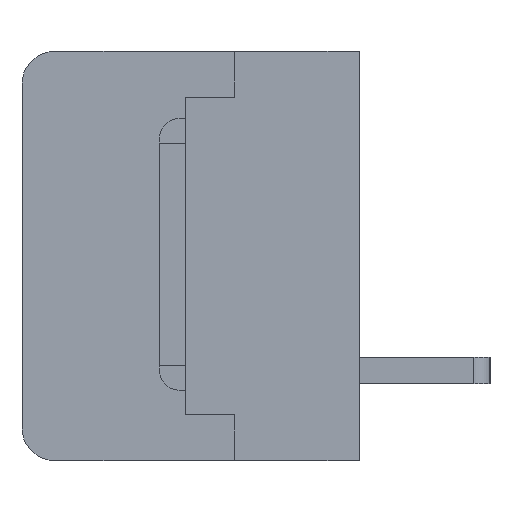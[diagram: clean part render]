
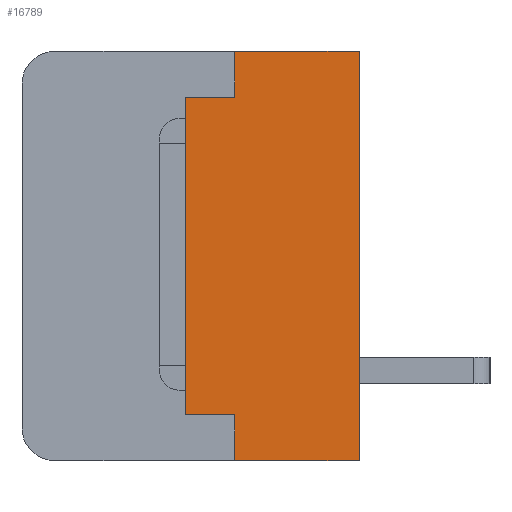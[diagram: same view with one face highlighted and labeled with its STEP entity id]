
A CAD part, left-side view. The second image highlights one B-rep face of the part: STEP entity #16789.
In plain terms, the highlighted planar face has unit normal (-1, 0, 0).
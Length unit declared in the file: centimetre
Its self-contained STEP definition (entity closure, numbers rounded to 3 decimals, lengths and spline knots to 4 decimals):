
#1075=PLANE('',#27540);
#1795=VECTOR('',#18044,1.);
#1878=VECTOR('',#18171,1.);
#1896=VECTOR('',#18192,1.);
#1913=VECTOR('',#18210,1.);
#2612=VECTOR('',#19812,1.);
#2613=VECTOR('',#19813,1.);
#2614=VECTOR('',#19814,1.);
#2615=VECTOR('',#19815,1.);
#3591=LINE('',#22477,#1795);
#3674=LINE('',#22662,#1878);
#3692=LINE('',#22700,#1896);
#3709=LINE('',#22733,#1913);
#4408=LINE('',#25145,#2612);
#4409=LINE('',#25147,#2613);
#4410=LINE('',#25148,#2614);
#4411=LINE('',#25150,#2615);
#5323=VERTEX_POINT('',#22476);
#5324=VERTEX_POINT('',#22478);
#5373=VERTEX_POINT('',#22618);
#5394=VERTEX_POINT('',#22661);
#5412=VERTEX_POINT('',#22699);
#5428=VERTEX_POINT('',#22734);
#6098=VERTEX_POINT('',#25146);
#6099=VERTEX_POINT('',#25149);
#7483=EDGE_CURVE('',#5323,#5324,#3591,.T.);
#7575=EDGE_CURVE('',#5394,#5373,#3674,.T.);
#7594=EDGE_CURVE('',#5373,#5412,#3692,.T.);
#7611=EDGE_CURVE('',#5412,#5428,#3709,.T.);
#8655=EDGE_CURVE('',#6098,#5394,#4408,.T.);
#8656=EDGE_CURVE('',#5324,#6098,#4409,.T.);
#8657=EDGE_CURVE('',#6099,#5323,#4410,.T.);
#8658=EDGE_CURVE('',#5428,#6099,#4411,.T.);
#13050=ORIENTED_EDGE('',*,*,#8655,.F.);
#13051=ORIENTED_EDGE('',*,*,#8656,.F.);
#13052=ORIENTED_EDGE('',*,*,#7483,.F.);
#13053=ORIENTED_EDGE('',*,*,#8657,.F.);
#13054=ORIENTED_EDGE('',*,*,#8658,.F.);
#13055=ORIENTED_EDGE('',*,*,#7611,.F.);
#13056=ORIENTED_EDGE('',*,*,#7594,.F.);
#13057=ORIENTED_EDGE('',*,*,#7575,.F.);
#14850=EDGE_LOOP('',(#13050,#13051,#13052,#13053,#13054,#13055,#13056,#13057));
#15854=FACE_BOUND('',#14850,.T.);
#16789=ADVANCED_FACE('',(#15854),#1075,.F.);
#18044=DIRECTION('',(0.,0.,1.));
#18171=DIRECTION('',(0.,-1.,0.));
#18192=DIRECTION('',(0.,0.,-1.));
#18210=DIRECTION('',(0.,1.,0.));
#19811=DIRECTION('',(1.,0.,0.));
#19812=DIRECTION('',(0.,0.,1.));
#19813=DIRECTION('',(0.,-1.,0.));
#19814=DIRECTION('',(0.,1.,0.));
#19815=DIRECTION('',(0.,0.,1.));
#22476=CARTESIAN_POINT('',(-1.382,0.53,-0.485));
#22477=CARTESIAN_POINT('',(-1.382,0.53,-0.485));
#22478=CARTESIAN_POINT('',(-1.382,0.53,0.485));
#22618=CARTESIAN_POINT('',(-1.382,0.,0.625));
#22661=CARTESIAN_POINT('',(-1.382,0.38,0.625));
#22662=CARTESIAN_POINT('',(-1.382,0.38,0.625));
#22699=CARTESIAN_POINT('',(-1.382,0.,-0.625));
#22700=CARTESIAN_POINT('',(-1.382,0.,0.625));
#22733=CARTESIAN_POINT('',(-1.382,0.,-0.625));
#22734=CARTESIAN_POINT('',(-1.382,0.38,-0.625));
#25144=CARTESIAN_POINT('',(-1.382,0.2532,0.));
#25145=CARTESIAN_POINT('',(-1.382,0.38,0.485));
#25146=CARTESIAN_POINT('',(-1.382,0.38,0.485));
#25147=CARTESIAN_POINT('',(-1.382,0.53,0.485));
#25148=CARTESIAN_POINT('',(-1.382,0.38,-0.485));
#25149=CARTESIAN_POINT('',(-1.382,0.38,-0.485));
#25150=CARTESIAN_POINT('',(-1.382,0.38,-0.625));
#27540=AXIS2_PLACEMENT_3D('',#25144,#19811,$);
